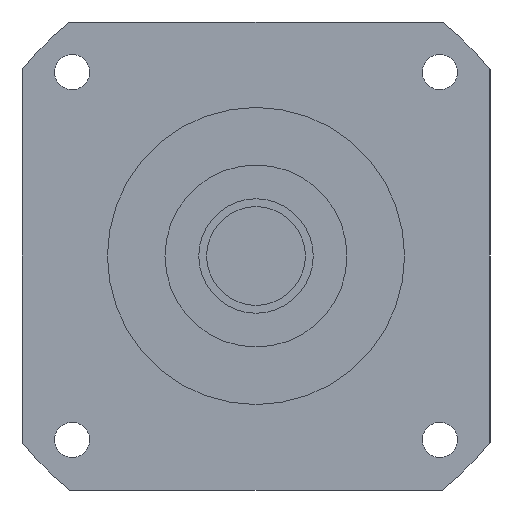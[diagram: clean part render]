
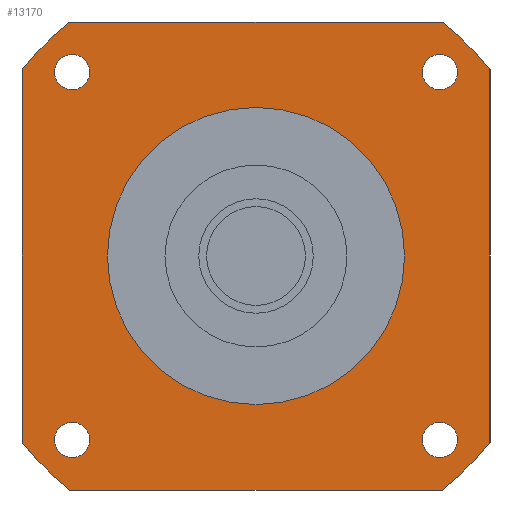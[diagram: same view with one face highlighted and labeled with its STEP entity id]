
A CAD part, left-side view. The second image highlights one B-rep face of the part: STEP entity #13170.
In plain terms, the highlighted planar face has unit normal (-1, 0, 0) as drawn and (0, 0, -1) by its records, which use the part's own axes.
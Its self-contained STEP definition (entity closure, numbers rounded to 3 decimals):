
#10190=CARTESIAN_POINT('',(-71.589,90.,-91.7));
#10200=VERTEX_POINT('',#10190);
#10380=CARTESIAN_POINT('',(-90.,71.589,-91.7));
#10390=VERTEX_POINT('',#10380);
#10420=CARTESIAN_POINT('',(0.,0.,
-91.7));
#10430=DIRECTION('',(0.,0.,-1.));
#10440=DIRECTION('',(1.,0.,0.));
#10450=AXIS2_PLACEMENT_3D('',#10420,#10430,#10440);
#10460=CIRCLE('',#10450,115.);
#10470=EDGE_CURVE('',#10390,#10200,#10460,.T.);
#10610=CARTESIAN_POINT('',(90.,71.589,-91.7));
#10620=VERTEX_POINT('',#10610);
#10670=CARTESIAN_POINT('',(90.,90.,-91.7));
#10680=DIRECTION('',(0.,-1.,0.));
#10690=VECTOR('',#10680,1000.);
#10700=LINE('',#10670,#10690);
#10710=CARTESIAN_POINT('',(90.,-71.589,-91.7));
#10720=VERTEX_POINT('',#10710);
#10730=EDGE_CURVE('',#10620,#10720,#10700,.T.);
#11670=CARTESIAN_POINT('',(57.15,0.,-91.7));
#11680=VERTEX_POINT('',#11670);
#11710=CARTESIAN_POINT('',(0.,0.,
-91.7));
#11720=DIRECTION('',(0.,0.,1.));
#11730=DIRECTION('',(0.,1.,0.));
#11740=AXIS2_PLACEMENT_3D('',#11710,#11720,#11730);
#11750=CIRCLE('',#11740,57.15);
#11760=CARTESIAN_POINT('',(0.,57.15,-91.7));
#11770=VERTEX_POINT('',#11760);
#11780=EDGE_CURVE('',#11680,#11770,#11750,.T.);
#11800=CARTESIAN_POINT('',(-57.15,0.,-91.7));
#11810=VERTEX_POINT('',#11800);
#11820=EDGE_CURVE('',#11770,#11810,#11750,.T.);
#11950=CARTESIAN_POINT('',(90.,90.,-91.7));
#11960=DIRECTION('',(0.,0.,-1.));
#11970=DIRECTION('',(1.,0.,0.));
#11980=AXIS2_PLACEMENT_3D('',#11950,#11960,#11970);
#11990=PLANE('',#11980);
#12000=CARTESIAN_POINT('',(-70.711,-70.711,-91.7));
#12010=DIRECTION('',(0.,0.,-1.));
#12020=DIRECTION('',(0.,-1.,0.));
#12030=AXIS2_PLACEMENT_3D('',#12000,#12010,#12020);
#12040=CIRCLE('',#12030,6.75);
#12050=CARTESIAN_POINT('',(-70.711,-77.461,-91.7));
#12060=VERTEX_POINT('',#12050);
#12070=CARTESIAN_POINT('',(-70.711,-63.961,-91.7));
#12080=VERTEX_POINT('',#12070);
#12090=EDGE_CURVE('',#12060,#12080,#12040,.T.);
#12100=ORIENTED_EDGE('',*,*,#12090,.F.);
#12110=EDGE_CURVE('',#12080,#12060,#12040,.T.);
#12120=ORIENTED_EDGE('',*,*,#12110,.F.);
#12130=EDGE_LOOP('',(#12120,#12100));
#12140=FACE_BOUND('',#12130,.T.);
#12150=CARTESIAN_POINT('',(-70.711,70.711,-91.7));
#12160=DIRECTION('',(0.,0.,-1.));
#12170=DIRECTION('',(-1.,0.,0.));
#12180=AXIS2_PLACEMENT_3D('',#12150,#12160,#12170);
#12190=CIRCLE('',#12180,6.75);
#12200=CARTESIAN_POINT('',(-77.461,70.711,-91.7));
#12210=VERTEX_POINT('',#12200);
#12220=CARTESIAN_POINT('',(-63.961,70.711,-91.7));
#12230=VERTEX_POINT('',#12220);
#12240=EDGE_CURVE('',#12210,#12230,#12190,.T.);
#12250=ORIENTED_EDGE('',*,*,#12240,.F.);
#12260=EDGE_CURVE('',#12230,#12210,#12190,.T.);
#12270=ORIENTED_EDGE('',*,*,#12260,.F.);
#12280=EDGE_LOOP('',(#12270,#12250));
#12290=FACE_BOUND('',#12280,.T.);
#12300=CARTESIAN_POINT('',(70.711,70.711,-91.7));
#12310=DIRECTION('',(0.,0.,-1.));
#12320=DIRECTION('',(0.,1.,0.));
#12330=AXIS2_PLACEMENT_3D('',#12300,#12310,#12320);
#12340=CIRCLE('',#12330,6.75);
#12350=CARTESIAN_POINT('',(70.711,77.461,-91.7));
#12360=VERTEX_POINT('',#12350);
#12370=CARTESIAN_POINT('',(70.711,63.961,-91.7));
#12380=VERTEX_POINT('',#12370);
#12390=EDGE_CURVE('',#12360,#12380,#12340,.T.);
#12400=ORIENTED_EDGE('',*,*,#12390,.F.);
#12410=EDGE_CURVE('',#12380,#12360,#12340,.T.);
#12420=ORIENTED_EDGE('',*,*,#12410,.F.);
#12430=EDGE_LOOP('',(#12420,#12400));
#12440=FACE_BOUND('',#12430,.T.);
#12450=EDGE_CURVE('',#11810,#11680,#11750,.T.);
#12460=ORIENTED_EDGE('',*,*,#12450,.T.);
#12470=ORIENTED_EDGE('',*,*,#11820,.T.);
#12480=ORIENTED_EDGE('',*,*,#11780,.T.);
#12490=EDGE_LOOP('',(#12480,#12470,#12460));
#12500=FACE_BOUND('',#12490,.T.);
#12510=CARTESIAN_POINT('',(-90.,90.,-91.7));
#12520=DIRECTION('',(1.,0.,0.));
#12530=VECTOR('',#12520,1000.);
#12540=LINE('',#12510,#12530);
#12550=CARTESIAN_POINT('',(71.589,90.,-91.7));
#12560=VERTEX_POINT('',#12550);
#12570=EDGE_CURVE('',#10200,#12560,#12540,.T.);
#12580=ORIENTED_EDGE('',*,*,#12570,.T.);
#12590=ORIENTED_EDGE('',*,*,#10470,.T.);
#12600=CARTESIAN_POINT('',(-90.,-90.,-91.7));
#12610=DIRECTION('',(0.,1.,0.));
#12620=VECTOR('',#12610,1000.);
#12630=LINE('',#12600,#12620);
#12640=CARTESIAN_POINT('',(-90.,-71.589,-91.7));
#12650=VERTEX_POINT('',#12640);
#12660=EDGE_CURVE('',#12650,#10390,#12630,.T.);
#12670=ORIENTED_EDGE('',*,*,#12660,.T.);
#12680=CARTESIAN_POINT('',(0.,0.,
-91.7));
#12690=DIRECTION('',(0.,0.,-1.));
#12700=DIRECTION('',(1.,0.,0.));
#12710=AXIS2_PLACEMENT_3D('',#12680,#12690,#12700);
#12720=CIRCLE('',#12710,115.);
#12730=CARTESIAN_POINT('',(-71.589,-90.,-91.7));
#12740=VERTEX_POINT('',#12730);
#12750=EDGE_CURVE('',#12740,#12650,#12720,.T.);
#12760=ORIENTED_EDGE('',*,*,#12750,.T.);
#12770=CARTESIAN_POINT('',(90.,-90.,-91.7));
#12780=DIRECTION('',(-1.,0.,0.));
#12790=VECTOR('',#12780,1000.);
#12800=LINE('',#12770,#12790);
#12810=CARTESIAN_POINT('',(71.589,-90.,-91.7));
#12820=VERTEX_POINT('',#12810);
#12830=EDGE_CURVE('',#12820,#12740,#12800,.T.);
#12840=ORIENTED_EDGE('',*,*,#12830,.T.);
#12850=CARTESIAN_POINT('',(0.,0.,
-91.7));
#12860=DIRECTION('',(0.,0.,-1.));
#12870=DIRECTION('',(1.,0.,0.));
#12880=AXIS2_PLACEMENT_3D('',#12850,#12860,#12870);
#12890=CIRCLE('',#12880,115.);
#12900=EDGE_CURVE('',#10720,#12820,#12890,.T.);
#12910=ORIENTED_EDGE('',*,*,#12900,.T.);
#12920=ORIENTED_EDGE('',*,*,#10730,.T.);
#12930=CARTESIAN_POINT('',(0.,0.,
-91.7));
#12940=DIRECTION('',(0.,0.,-1.));
#12950=DIRECTION('',(1.,0.,0.));
#12960=AXIS2_PLACEMENT_3D('',#12930,#12940,#12950);
#12970=CIRCLE('',#12960,115.);
#12980=EDGE_CURVE('',#12560,#10620,#12970,.T.);
#12990=ORIENTED_EDGE('',*,*,#12980,.T.);
#13000=EDGE_LOOP('',(#12990,#12920,#12910,#12840,#12760,#12670,#12590,
#12580));
#13010=FACE_OUTER_BOUND('',#13000,.T.);
#13020=CARTESIAN_POINT('',(70.711,-70.711,-91.7));
#13030=DIRECTION('',(0.,0.,-1.));
#13040=DIRECTION('',(1.,0.,0.));
#13050=AXIS2_PLACEMENT_3D('',#13020,#13030,#13040);
#13060=CIRCLE('',#13050,6.75);
#13070=CARTESIAN_POINT('',(77.461,-70.711,-91.7));
#13080=VERTEX_POINT('',#13070);
#13090=CARTESIAN_POINT('',(63.961,-70.711,-91.7));
#13100=VERTEX_POINT('',#13090);
#13110=EDGE_CURVE('',#13080,#13100,#13060,.T.);
#13120=ORIENTED_EDGE('',*,*,#13110,.F.);
#13130=EDGE_CURVE('',#13100,#13080,#13060,.T.);
#13140=ORIENTED_EDGE('',*,*,#13130,.F.);
#13150=EDGE_LOOP('',(#13140,#13120));
#13160=FACE_BOUND('',#13150,.T.);
#13170=ADVANCED_FACE('',(#12140,#12290,#12440,#12500,#13010,#13160),
#11990,.T.);
